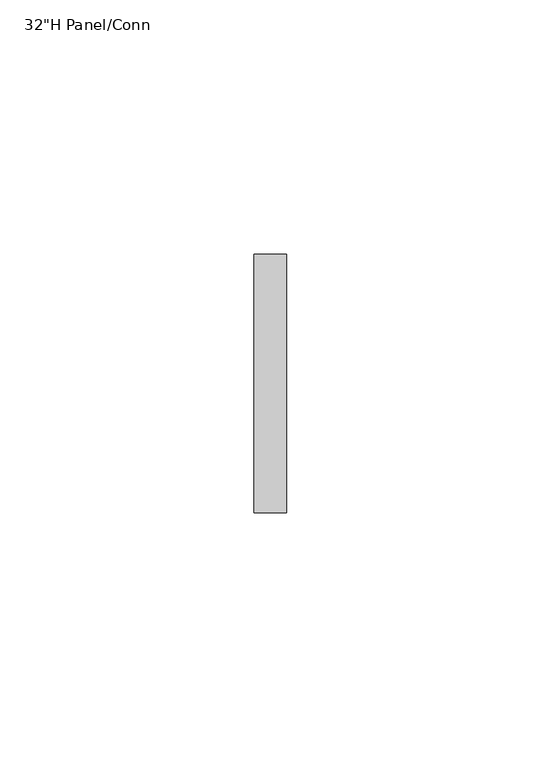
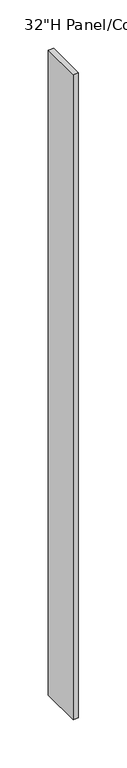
"""IFC4 building model written with IfcOpenShell, lengths in millimetres: furniture geometry."""

import ifcopenshell
import ifcopenshell.guid

model = None  # the IFC model being written
_history = None  # IfcOwnerHistory: only IFC2X3 demands one
_inside = {}  # id of a spatial element -> (the spatial element, [elements in it])
_under = {}  # id of a project, library or spatial element -> (it, [spatial elements below it])
_declared = {}  # id of a project -> (the project, [libraries it declares])
_typed = {}  # id of a type object -> (the type object, [elements of that type])
_made_of = {}  # id of a material, layer set ... -> (it, [elements and type objects made of it])


def new_model(schema):
    """Start an empty IFC model of exactly this schema.

    Asked for "IFC4X3", IfcOpenShell would pick the latest addendum, in which some entities
    have other attributes; the version numbers below select the first issue.
    IFC2X3 requires an IfcOwnerHistory on every rooted entity: one is made here for all.
    """
    global model, _history
    if schema == "IFC4X3":
        model = ifcopenshell.file(schema_version=(4, 3, 0, 0))
    else:
        model = ifcopenshell.file(schema=schema)
    _inside.clear()
    _under.clear()
    _declared.clear()
    _typed.clear()
    _made_of.clear()
    _history = None
    if model.schema == "IFC2X3":
        org = make("IfcOrganization", Name="unknown")
        user = make(
            "IfcPersonAndOrganization",
            ThePerson=make("IfcPerson", FamilyName="unknown"),
            TheOrganization=org,
        )
        app = make(
            "IfcApplication",
            ApplicationDeveloper=org,
            Version="unknown",
            ApplicationFullName="unknown",
            ApplicationIdentifier="unknown",
        )
        _history = make(
            "IfcOwnerHistory",
            OwningUser=user,
            OwningApplication=app,
            ChangeAction="ADDED",
            CreationDate=0,
        )
    return model


def make(cls, **values):
    """One entity of the class cls with the attributes given. An attribute that is None is left unset."""
    return model.create_entity(
        cls, **{name: value for name, value in values.items() if value is not None}
    )


def rooted(cls, **values):
    """An entity with a GlobalId (a new one), such as an element, a storey or a relation."""
    return make(cls, GlobalId=ifcopenshell.guid.new(), OwnerHistory=_history, **values)


def si_unit(unit_type, name, prefix=None):
    """IfcSIUnit, for example si_unit("LENGTHUNIT", "METRE", prefix="MILLI")."""
    return make("IfcSIUnit", UnitType=unit_type, Prefix=prefix, Name=name)


def assignment(units):
    """IfcUnitAssignment: the units of a project."""
    return None if units is None else make("IfcUnitAssignment", Units=units)


def point(xyz):
    """IfcCartesianPoint."""
    return None if xyz is None else make("IfcCartesianPoint", Coordinates=xyz)


def direction(xyz):
    """IfcDirection."""
    return None if xyz is None else make("IfcDirection", DirectionRatios=xyz)


def frame(location, z_axis=None, x_axis=None):
    """IfcAxis2Placement3D, a coordinate frame: its origin and axes. An axis left out is left unset."""
    return make(
        "IfcAxis2Placement3D",
        Location=point(location),
        Axis=direction(z_axis),
        RefDirection=direction(x_axis),
    )


def origin():
    """The frame at (0, 0, 0) with its axes left unset."""
    return frame((0.0, 0.0, 0.0))


def place(relative_to, where):
    """IfcLocalPlacement: puts the frame where relative to a parent placement (None: the world)."""
    return make(
        "IfcLocalPlacement", PlacementRelTo=relative_to, RelativePlacement=where
    )


def context(
    kind, dimensions, precision=None, world=None, true_north=None, identifier=None
):
    """IfcGeometricRepresentationContext, for example the 3D "Model" context."""
    return make(
        "IfcGeometricRepresentationContext",
        ContextIdentifier=identifier,
        ContextType=kind,
        CoordinateSpaceDimension=dimensions,
        Precision=precision,
        WorldCoordinateSystem=world,
        TrueNorth=true_north,
    )


def project(units=None, contexts=None):
    """IfcProject with its units and contexts."""
    return rooted(
        "IfcProject",
        Name="project",
        RepresentationContexts=contexts,
        UnitsInContext=assignment(units),
    )


def spatial(cls, under=None, at=None, **own):
    """A site, building, storey or space (cls), placed at a placement, below another one or the project."""
    s = rooted(cls, ObjectPlacement=at, **own)
    if under is not None:
        _under.setdefault(under.id(), (under, []))[1].append(s)
    return s


def polyline(points):
    """IfcPolyline through the points."""
    return make("IfcPolyline", Points=[point(p) for p in points])


def outline(outer, holes=None, kind="AREA"):
    """IfcArbitraryClosedProfileDef: a profile drawn as a closed curve; with holes, ...WithVoids."""
    if holes is None:
        return make("IfcArbitraryClosedProfileDef", ProfileType=kind, OuterCurve=outer)
    return make(
        "IfcArbitraryProfileDefWithVoids",
        ProfileType=kind,
        OuterCurve=outer,
        InnerCurves=holes,
    )


def extrude(swept, where, along, depth):
    """IfcExtrudedAreaSolid: the profile swept, set in the frame where, extruded along a direction by depth."""
    return make(
        "IfcExtrudedAreaSolid",
        SweptArea=swept,
        Position=where,
        ExtrudedDirection=direction(along),
        Depth=depth,
    )


def shape(context_of_items, identifier, shape_type, items):
    """IfcShapeRepresentation: the items that make up one representation, for example the "Body"."""
    return make(
        "IfcShapeRepresentation",
        ContextOfItems=context_of_items,
        RepresentationIdentifier=identifier,
        RepresentationType=shape_type,
        Items=items,
    )


def source(mapping_origin, context_of_items, identifier, shape_type, items):
    """IfcRepresentationMap: a shape defined once, which mapped items show again and again."""
    return make(
        "IfcRepresentationMap",
        MappingOrigin=mapping_origin,
        MappedRepresentation=shape(context_of_items, identifier, shape_type, items),
    )


def transform(
    local_origin,
    x_axis=None,
    y_axis=None,
    z_axis=None,
    scale=None,
    scale2=None,
    scale3=None,
    uniform=True,
):
    """IfcCartesianTransformationOperator3D, or its non-uniform kind. x_axis, y_axis, z_axis: its Axis1, 2, 3."""
    if uniform:
        return make(
            "IfcCartesianTransformationOperator3D",
            Axis1=direction(x_axis),
            Axis2=direction(y_axis),
            LocalOrigin=point(local_origin),
            Scale=scale,
            Axis3=direction(z_axis),
        )
    return make(
        "IfcCartesianTransformationOperator3DnonUniform",
        Axis1=direction(x_axis),
        Axis2=direction(y_axis),
        LocalOrigin=point(local_origin),
        Scale=scale,
        Axis3=direction(z_axis),
        Scale2=scale2,
        Scale3=scale3,
    )


def mapped(mapping_source, mapping_target):
    """IfcMappedItem: shows the shape of a source again, moved by a transform."""
    return make(
        "IfcMappedItem", MappingSource=mapping_source, MappingTarget=mapping_target
    )


def made_of(thing, what):
    """Note that an element or type object is made of a material, layer set ...; save() writes the relation."""
    if what is not None:
        _made_of.setdefault(what.id(), (what, []))[1].append(thing)
    return thing


def element(
    cls,
    number,
    at=None,
    inside=None,
    cuts=None,
    type_object=None,
    material=None,
    context=None,
    identifier="Body",
    shape_type=None,
    held_by="IfcProductDefinitionShape",
    body=None,
    shapes=None,
    **own,
):
    """One element of the class cls, such as IfcWall. Its Tag is "e" and its number.

    at: its placement. inside: the storey or other place that contains it. cuts: it is an
    opening in that element (IfcRelVoidsElement). A single representation is given by context,
    identifier, shape_type and body (its items); several are given by shapes. held_by: the class
    of the entity that holds the representations. save() writes the other relations.
    """
    e = rooted(cls, Tag="e%d" % number, ObjectPlacement=at, **own)
    if body is not None:
        shapes = [shape(context, identifier, shape_type, body)]
    if shapes is not None:
        e.Representation = make(held_by, Representations=shapes)
    if inside is not None:
        _inside.setdefault(inside.id(), (inside, []))[1].append(e)
    if cuts is not None:
        rooted(
            "IfcRelVoidsElement", RelatingBuildingElement=cuts, RelatedOpeningElement=e
        )
    if type_object is not None:
        _typed.setdefault(type_object.id(), (type_object, []))[1].append(e)
    return made_of(e, material)


def aggregate(whole, parts):
    """IfcRelAggregates: a whole, such as a stair, and the parts it consists of."""
    return rooted("IfcRelAggregates", RelatingObject=whole, RelatedObjects=parts)


def save(model, path):
    """Write the relations noted so far, then the file.

    IfcRelAggregates (storeys below a building ...), IfcRelContainedInSpatialStructure (elements
    in a storey), IfcRelDefinesByType, IfcRelAssociatesMaterial and IfcRelDeclares: one each for
    every whole, place, type object, material and project.
    """
    for whole, parts in _under.values():
        aggregate(whole, parts)
    for where, things in _inside.values():
        rooted(
            "IfcRelContainedInSpatialStructure",
            RelatedElements=things,
            RelatingStructure=where,
        )
    for kind, things in _typed.values():
        rooted("IfcRelDefinesByType", RelatedObjects=things, RelatingType=kind)
    for what, things in _made_of.values():
        rooted("IfcRelAssociatesMaterial", RelatedObjects=things, RelatingMaterial=what)
    for by, libraries in _declared.values():
        rooted("IfcRelDeclares", RelatingContext=by, RelatedDefinitions=libraries)
    model.write(path)


def furniture_d0aba1ae(model_context):
    return source(origin(), model_context, "Body", "SweptSolid", [
        extrude(outline(polyline([(-60.5209988, 104.9709924), (-60.5209967, 54.1709916), (-66.8709967, 54.1709914), (-66.8709988, 104.9709922), (-60.5209988, 104.9709924)])), frame((0.0, 0.0, 898.5250008), z_axis=(0.0, 0.0, 1.0), x_axis=(1.0, 0.0, 0.0)), (0.0, 0.0, 1.0), 812.8),
    ])


if __name__ == "__main__":
    model = new_model("IFC4")
    model_context = context("Model", 3, world=origin())
    ifc_project = project(units=[si_unit("LENGTHUNIT", "METRE", prefix="MILLI")], contexts=[model_context])
    site = spatial("IfcSite", under=ifc_project)
    building = spatial("IfcBuilding", under=site)
    placement = place(None, origin())
    furniture_shape = furniture_d0aba1ae(model_context)
    element("IfcFurniture", 1, ObjectType="HermanMiller_ActionOffice_AO259_AO272_FinishedEndChangeOfHeight : 32\"H Panel/Conn", at=placement, inside=building, context=model_context, shape_type="MappedRepresentation", body=[
        mapped(furniture_shape, transform((0.0, 0.0, 0.0), x_axis=(1.0, 0.0, 0.0), y_axis=(0.0, 1.0, 0.0), z_axis=(0.0, 0.0, 1.0))),
    ])
    save(model, "model.ifc")
